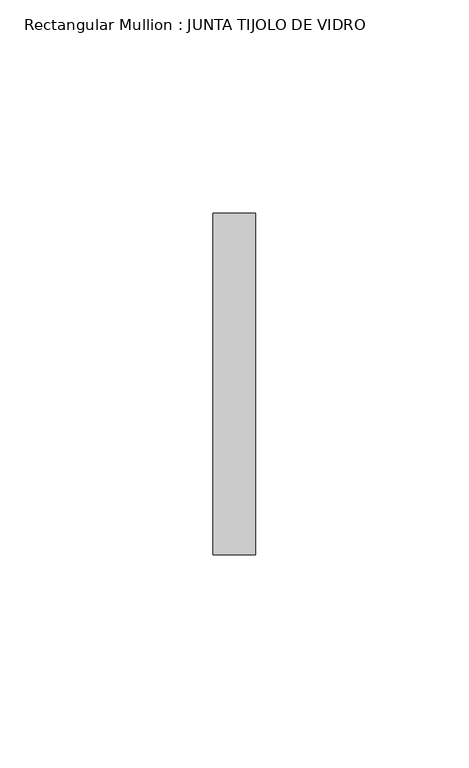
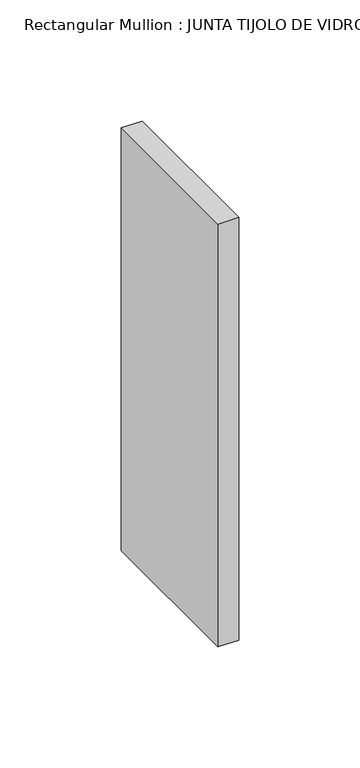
"""IFC4 building model written with IfcOpenShell, lengths in millimetres: member geometry, Rectangular Mullion : JUNTA TIJOLO DE VIDRO."""

import ifcopenshell
import ifcopenshell.guid

model = None  # the IFC model being written
_history = None  # IfcOwnerHistory: only IFC2X3 demands one
_inside = {}  # id of a spatial element -> (the spatial element, [elements in it])
_under = {}  # id of a project, library or spatial element -> (it, [spatial elements below it])
_declared = {}  # id of a project -> (the project, [libraries it declares])
_typed = {}  # id of a type object -> (the type object, [elements of that type])
_made_of = {}  # id of a material, layer set ... -> (it, [elements and type objects made of it])


def new_model(schema):
    """Start an empty IFC model of exactly this schema.

    Asked for "IFC4X3", IfcOpenShell would pick the latest addendum, in which some entities
    have other attributes; the version numbers below select the first issue.
    IFC2X3 requires an IfcOwnerHistory on every rooted entity: one is made here for all.
    """
    global model, _history
    if schema == "IFC4X3":
        model = ifcopenshell.file(schema_version=(4, 3, 0, 0))
    else:
        model = ifcopenshell.file(schema=schema)
    _inside.clear()
    _under.clear()
    _declared.clear()
    _typed.clear()
    _made_of.clear()
    _history = None
    if model.schema == "IFC2X3":
        org = make("IfcOrganization", Name="unknown")
        user = make(
            "IfcPersonAndOrganization",
            ThePerson=make("IfcPerson", FamilyName="unknown"),
            TheOrganization=org,
        )
        app = make(
            "IfcApplication",
            ApplicationDeveloper=org,
            Version="unknown",
            ApplicationFullName="unknown",
            ApplicationIdentifier="unknown",
        )
        _history = make(
            "IfcOwnerHistory",
            OwningUser=user,
            OwningApplication=app,
            ChangeAction="ADDED",
            CreationDate=0,
        )
    return model


def make(cls, **values):
    """One entity of the class cls with the attributes given. An attribute that is None is left unset."""
    return model.create_entity(
        cls, **{name: value for name, value in values.items() if value is not None}
    )


def rooted(cls, **values):
    """An entity with a GlobalId (a new one), such as an element, a storey or a relation."""
    return make(cls, GlobalId=ifcopenshell.guid.new(), OwnerHistory=_history, **values)


def si_unit(unit_type, name, prefix=None):
    """IfcSIUnit, for example si_unit("LENGTHUNIT", "METRE", prefix="MILLI")."""
    return make("IfcSIUnit", UnitType=unit_type, Prefix=prefix, Name=name)


def assignment(units):
    """IfcUnitAssignment: the units of a project."""
    return None if units is None else make("IfcUnitAssignment", Units=units)


def point(xyz):
    """IfcCartesianPoint."""
    return None if xyz is None else make("IfcCartesianPoint", Coordinates=xyz)


def direction(xyz):
    """IfcDirection."""
    return None if xyz is None else make("IfcDirection", DirectionRatios=xyz)


def frame(location, z_axis=None, x_axis=None):
    """IfcAxis2Placement3D, a coordinate frame: its origin and axes. An axis left out is left unset."""
    return make(
        "IfcAxis2Placement3D",
        Location=point(location),
        Axis=direction(z_axis),
        RefDirection=direction(x_axis),
    )


def origin():
    """The frame at (0, 0, 0) with its axes left unset."""
    return frame((0.0, 0.0, 0.0))


def place(relative_to, where):
    """IfcLocalPlacement: puts the frame where relative to a parent placement (None: the world)."""
    return make(
        "IfcLocalPlacement", PlacementRelTo=relative_to, RelativePlacement=where
    )


def context(
    kind, dimensions, precision=None, world=None, true_north=None, identifier=None
):
    """IfcGeometricRepresentationContext, for example the 3D "Model" context."""
    return make(
        "IfcGeometricRepresentationContext",
        ContextIdentifier=identifier,
        ContextType=kind,
        CoordinateSpaceDimension=dimensions,
        Precision=precision,
        WorldCoordinateSystem=world,
        TrueNorth=true_north,
    )


def project(units=None, contexts=None):
    """IfcProject with its units and contexts."""
    return rooted(
        "IfcProject",
        Name="project",
        RepresentationContexts=contexts,
        UnitsInContext=assignment(units),
    )


def spatial(cls, under=None, at=None, **own):
    """A site, building, storey or space (cls), placed at a placement, below another one or the project."""
    s = rooted(cls, ObjectPlacement=at, **own)
    if under is not None:
        _under.setdefault(under.id(), (under, []))[1].append(s)
    return s


def polyline(points):
    """IfcPolyline through the points."""
    return make("IfcPolyline", Points=[point(p) for p in points])


def outline(outer, holes=None, kind="AREA"):
    """IfcArbitraryClosedProfileDef: a profile drawn as a closed curve; with holes, ...WithVoids."""
    if holes is None:
        return make("IfcArbitraryClosedProfileDef", ProfileType=kind, OuterCurve=outer)
    return make(
        "IfcArbitraryProfileDefWithVoids",
        ProfileType=kind,
        OuterCurve=outer,
        InnerCurves=holes,
    )


def extrude(swept, where, along, depth):
    """IfcExtrudedAreaSolid: the profile swept, set in the frame where, extruded along a direction by depth."""
    return make(
        "IfcExtrudedAreaSolid",
        SweptArea=swept,
        Position=where,
        ExtrudedDirection=direction(along),
        Depth=depth,
    )


def shape(context_of_items, identifier, shape_type, items):
    """IfcShapeRepresentation: the items that make up one representation, for example the "Body"."""
    return make(
        "IfcShapeRepresentation",
        ContextOfItems=context_of_items,
        RepresentationIdentifier=identifier,
        RepresentationType=shape_type,
        Items=items,
    )


def source(mapping_origin, context_of_items, identifier, shape_type, items):
    """IfcRepresentationMap: a shape defined once, which mapped items show again and again."""
    return make(
        "IfcRepresentationMap",
        MappingOrigin=mapping_origin,
        MappedRepresentation=shape(context_of_items, identifier, shape_type, items),
    )


def transform(
    local_origin,
    x_axis=None,
    y_axis=None,
    z_axis=None,
    scale=None,
    scale2=None,
    scale3=None,
    uniform=True,
):
    """IfcCartesianTransformationOperator3D, or its non-uniform kind. x_axis, y_axis, z_axis: its Axis1, 2, 3."""
    if uniform:
        return make(
            "IfcCartesianTransformationOperator3D",
            Axis1=direction(x_axis),
            Axis2=direction(y_axis),
            LocalOrigin=point(local_origin),
            Scale=scale,
            Axis3=direction(z_axis),
        )
    return make(
        "IfcCartesianTransformationOperator3DnonUniform",
        Axis1=direction(x_axis),
        Axis2=direction(y_axis),
        LocalOrigin=point(local_origin),
        Scale=scale,
        Axis3=direction(z_axis),
        Scale2=scale2,
        Scale3=scale3,
    )


def mapped(mapping_source, mapping_target):
    """IfcMappedItem: shows the shape of a source again, moved by a transform."""
    return make(
        "IfcMappedItem", MappingSource=mapping_source, MappingTarget=mapping_target
    )


def made_of(thing, what):
    """Note that an element or type object is made of a material, layer set ...; save() writes the relation."""
    if what is not None:
        _made_of.setdefault(what.id(), (what, []))[1].append(thing)
    return thing


def element(
    cls,
    number,
    at=None,
    inside=None,
    cuts=None,
    type_object=None,
    material=None,
    context=None,
    identifier="Body",
    shape_type=None,
    held_by="IfcProductDefinitionShape",
    body=None,
    shapes=None,
    **own,
):
    """One element of the class cls, such as IfcWall. Its Tag is "e" and its number.

    at: its placement. inside: the storey or other place that contains it. cuts: it is an
    opening in that element (IfcRelVoidsElement). A single representation is given by context,
    identifier, shape_type and body (its items); several are given by shapes. held_by: the class
    of the entity that holds the representations. save() writes the other relations.
    """
    e = rooted(cls, Tag="e%d" % number, ObjectPlacement=at, **own)
    if body is not None:
        shapes = [shape(context, identifier, shape_type, body)]
    if shapes is not None:
        e.Representation = make(held_by, Representations=shapes)
    if inside is not None:
        _inside.setdefault(inside.id(), (inside, []))[1].append(e)
    if cuts is not None:
        rooted(
            "IfcRelVoidsElement", RelatingBuildingElement=cuts, RelatedOpeningElement=e
        )
    if type_object is not None:
        _typed.setdefault(type_object.id(), (type_object, []))[1].append(e)
    return made_of(e, material)


def aggregate(whole, parts):
    """IfcRelAggregates: a whole, such as a stair, and the parts it consists of."""
    return rooted("IfcRelAggregates", RelatingObject=whole, RelatedObjects=parts)


def save(model, path):
    """Write the relations noted so far, then the file.

    IfcRelAggregates (storeys below a building ...), IfcRelContainedInSpatialStructure (elements
    in a storey), IfcRelDefinesByType, IfcRelAssociatesMaterial and IfcRelDeclares: one each for
    every whole, place, type object, material and project.
    """
    for whole, parts in _under.values():
        aggregate(whole, parts)
    for where, things in _inside.values():
        rooted(
            "IfcRelContainedInSpatialStructure",
            RelatedElements=things,
            RelatingStructure=where,
        )
    for kind, things in _typed.values():
        rooted("IfcRelDefinesByType", RelatedObjects=things, RelatingType=kind)
    for what, things in _made_of.values():
        rooted("IfcRelAssociatesMaterial", RelatedObjects=things, RelatingMaterial=what)
    for by, libraries in _declared.values():
        rooted("IfcRelDeclares", RelatingContext=by, RelatedDefinitions=libraries)
    model.write(path)


def rectangular_mullion_junta_tijolo_de_vidro_f72a5d11(model_context):
    return source(origin(), model_context, "Body", "SweptSolid", [
        extrude(outline(polyline([(0.0, 40.0), (0.0, -40.0), (-10.0, -40.0), (-10.0, 40.0), (0.0, 40.0)])), frame((0.0, 0.0, -213.1818182), z_axis=(0.0, 0.0, 1.0), x_axis=(1.0, 0.0, 0.0)), (0.0, 0.0, 1.0), 213.1818182),
    ])


if __name__ == "__main__":
    model = new_model("IFC4")
    model_context = context("Model", 3, world=origin())
    ifc_project = project(units=[si_unit("LENGTHUNIT", "METRE", prefix="MILLI")], contexts=[model_context])
    site = spatial("IfcSite", under=ifc_project)
    building = spatial("IfcBuilding", under=site)
    placement = place(None, origin())
    rectangular_mullion_junta_tijolo_de_vidro_shape = rectangular_mullion_junta_tijolo_de_vidro_f72a5d11(model_context)
    element("IfcMember", 1, ObjectType="Rectangular Mullion : JUNTA TIJOLO DE VIDRO", at=placement, inside=building, context=model_context, shape_type="MappedRepresentation", body=[
        mapped(rectangular_mullion_junta_tijolo_de_vidro_shape, transform((0.0, 0.0, 0.0), x_axis=(1.0, 0.0, 0.0), y_axis=(0.0, 1.0, 0.0), z_axis=(0.0, 0.0, 1.0))),
    ])
    save(model, "model.ifc")
